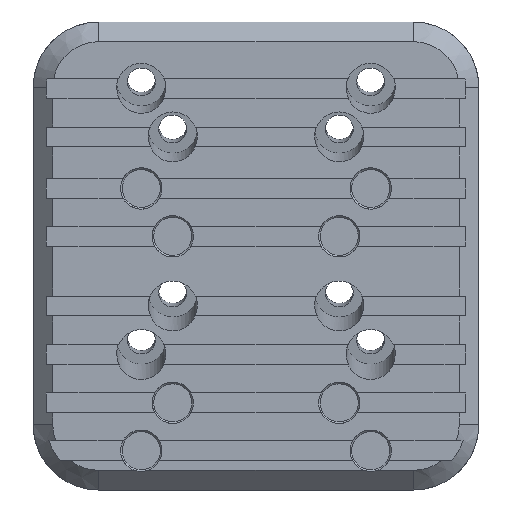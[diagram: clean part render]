
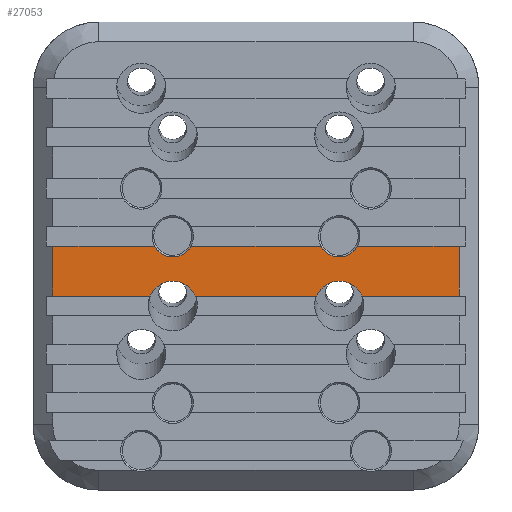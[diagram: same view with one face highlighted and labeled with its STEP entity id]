
A CAD part, front view. The second image highlights one B-rep face of the part: STEP entity #27053.
In plain terms, the highlighted planar face has unit normal (0, -1, 0).
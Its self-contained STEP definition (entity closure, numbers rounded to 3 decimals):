
#85 = EDGE_CURVE ( 'NONE', #14109, #9292, #25802, .T. ) ;
#475 = EDGE_CURVE ( 'NONE', #19789, #5242, #15084, .T. ) ;
#595 = CARTESIAN_POINT ( 'NONE',  ( 17.853, 0., -41.824 ) ) ;
#670 = CARTESIAN_POINT ( 'NONE',  ( 24.747, 0., -41.824 ) ) ;
#704 = ORIENTED_EDGE ( 'NONE', *, *, #24078, .F. ) ;
#935 = EDGE_CURVE ( 'NONE', #22788, #10966, #13414, .T. ) ;
#2273 = CARTESIAN_POINT ( 'NONE',  ( 0., 0., -34.2 ) ) ;
#2625 = CARTESIAN_POINT ( 'NONE',  ( 24.076, 0., -34.2 ) ) ;
#2744 = VERTEX_POINT ( 'NONE', #10439 ) ;
#3086 = PLANE ( 'NONE',  #19860 ) ;
#3620 = FACE_OUTER_BOUND ( 'NONE', #4729, .T. ) ;
#4048 = DIRECTION ( 'NONE',  ( 0., 1., 0. ) ) ;
#4729 = EDGE_LOOP ( 'NONE', ( #9269, #15176, #19184, #704, #15189, #14493, #11249, #20325, #16315, #14563, #19924, #12339 ) ) ;
#4783 = DIRECTION ( 'NONE',  ( 0., -1., 0. ) ) ;
#4998 = CARTESIAN_POINT ( 'NONE',  ( 68., 0., -71.4 ) ) ;
#5242 = VERTEX_POINT ( 'NONE', #8549 ) ;
#5730 = CARTESIAN_POINT ( 'NONE',  ( 3., 0., -34.2 ) ) ;
#6529 = DIRECTION ( 'NONE',  ( 1., 0., 0. ) ) ;
#6572 = VERTEX_POINT ( 'NONE', #14537 ) ;
#7271 = DIRECTION ( 'NONE',  ( 0., 1., 0. ) ) ;
#7841 = CARTESIAN_POINT ( 'NONE',  ( 68., 0., -41.824 ) ) ;
#7996 = CARTESIAN_POINT ( 'NONE',  ( 44.772, 0., -38.225 ) ) ;
#8549 = CARTESIAN_POINT ( 'NONE',  ( 43.924, 0., -34.2 ) ) ;
#8713 = VERTEX_POINT ( 'NONE', #16493 ) ;
#9181 = VECTOR ( 'NONE', #25781, 1000. ) ;
#9269 = ORIENTED_EDGE ( 'NONE', *, *, #11040, .F. ) ;
#9292 = VERTEX_POINT ( 'NONE', #24420 ) ;
#10439 = CARTESIAN_POINT ( 'NONE',  ( 65., 0., -41.824 ) ) ;
#10561 = DIRECTION ( 'NONE',  ( 1., 0., 0. ) ) ;
#10966 = VERTEX_POINT ( 'NONE', #17133 ) ;
#11040 = EDGE_CURVE ( 'NONE', #10966, #19789, #19916, .T. ) ;
#11101 = CARTESIAN_POINT ( 'NONE',  ( 65., 0., -71.4 ) ) ;
#11237 = CARTESIAN_POINT ( 'NONE',  ( 0., 0., -34.2 ) ) ;
#11249 = ORIENTED_EDGE ( 'NONE', *, *, #14931, .T. ) ;
#11275 = CARTESIAN_POINT ( 'NONE',  ( 17.853, 0., -41.824 ) ) ;
#11429 = EDGE_CURVE ( 'NONE', #2744, #6572, #18314, .T. ) ;
#12030 = EDGE_CURVE ( 'NONE', #14109, #5242, #26398, .T. ) ;
#12137 = DIRECTION ( 'NONE',  ( 0., 0., -1. ) ) ;
#12238 = CARTESIAN_POINT ( 'NONE',  ( 48.628, 0., -38.225 ) ) ;
#12339 = ORIENTED_EDGE ( 'NONE', *, *, #475, .F. ) ;
#12540 = LINE ( 'NONE', #16736, #22953 ) ;
#12624 = DIRECTION ( 'NONE',  ( -1., 0., 0. ) ) ;
#13179 = CARTESIAN_POINT ( 'NONE',  ( 23.228, 0., -38.225 ) ) ;
#13195 = DIRECTION ( 'NONE',  ( 0., 0., 1. ) ) ;
#13414 = LINE ( 'NONE', #2273, #18998 ) ;
#13691 = EDGE_CURVE ( 'NONE', #2744, #9292, #20171, .T. ) ;
#14076 = LINE ( 'NONE', #24579, #19615 ) ;
#14109 = VERTEX_POINT ( 'NONE', #17037 ) ;
#14493 = ORIENTED_EDGE ( 'NONE', *, *, #18411, .F. ) ;
#14537 = CARTESIAN_POINT ( 'NONE',  ( 50.147, 0., -41.824 ) ) ;
#14563 = ORIENTED_EDGE ( 'NONE', *, *, #85, .F. ) ;
#14656 = VECTOR ( 'NONE', #13195, 1000. ) ;
#14748 = CARTESIAN_POINT ( 'NONE',  ( 3., 0., -41.824 ) ) ;
#14931 = EDGE_CURVE ( 'NONE', #22949, #6572, #24530, .T. ) ;
#14965 =( BOUNDED_CURVE ( )  B_SPLINE_CURVE ( 3, ( #595, #17299, #13179, #670 ),
 .UNSPECIFIED., .F., .F. ) 
 B_SPLINE_CURVE_WITH_KNOTS ( ( 4, 4 ),
 ( 5.117, 7.449 ),
 .UNSPECIFIED. ) 
 CURVE ( )  GEOMETRIC_REPRESENTATION_ITEM ( )  RATIONAL_B_SPLINE_CURVE ( ( 1., 0.596, 0.596, 1. ) ) 
 REPRESENTATION_ITEM ( '' )  );
#15084 = LINE ( 'NONE', #18944, #19944 ) ;
#15176 = ORIENTED_EDGE ( 'NONE', *, *, #935, .F. ) ;
#15189 = ORIENTED_EDGE ( 'NONE', *, *, #19262, .T. ) ;
#16315 = ORIENTED_EDGE ( 'NONE', *, *, #13691, .T. ) ;
#16418 = CARTESIAN_POINT ( 'NONE',  ( 68., 0., -41.824 ) ) ;
#16493 = CARTESIAN_POINT ( 'NONE',  ( 24.747, 0., -41.824 ) ) ;
#16576 = CARTESIAN_POINT ( 'NONE',  ( 46.7, 0., -32.7 ) ) ;
#16736 = CARTESIAN_POINT ( 'NONE',  ( 68., 0., -41.824 ) ) ;
#17037 = CARTESIAN_POINT ( 'NONE',  ( 49.476, 0., -34.2 ) ) ;
#17133 = CARTESIAN_POINT ( 'NONE',  ( 18.524, 0., -34.2 ) ) ;
#17295 = CARTESIAN_POINT ( 'NONE',  ( 21.3, 0., -32.7 ) ) ;
#17299 = CARTESIAN_POINT ( 'NONE',  ( 19.372, 0., -38.225 ) ) ;
#18314 = LINE ( 'NONE', #16418, #23805 ) ;
#18411 = EDGE_CURVE ( 'NONE', #22949, #8713, #23985, .T. ) ;
#18660 = DIRECTION ( 'NONE',  ( 0., 0., 1. ) ) ;
#18944 = CARTESIAN_POINT ( 'NONE',  ( 0., 0., -34.2 ) ) ;
#18998 = VECTOR ( 'NONE', #10561, 1000. ) ;
#19120 = VERTEX_POINT ( 'NONE', #14748 ) ;
#19184 = ORIENTED_EDGE ( 'NONE', *, *, #26064, .T. ) ;
#19262 = EDGE_CURVE ( 'NONE', #21142, #8713, #14965, .T. ) ;
#19377 = DIRECTION ( 'NONE',  ( 0., 0., 1. ) ) ;
#19615 = VECTOR ( 'NONE', #12137, 1000. ) ;
#19789 = VERTEX_POINT ( 'NONE', #2625 ) ;
#19860 = AXIS2_PLACEMENT_3D ( 'NONE', #4998, #7271, #21862 ) ;
#19916 = CIRCLE ( 'NONE', #26343, 3.155 ) ;
#19924 = ORIENTED_EDGE ( 'NONE', *, *, #12030, .T. ) ;
#19944 = VECTOR ( 'NONE', #6529, 1000. ) ;
#20171 = LINE ( 'NONE', #11101, #14656 ) ;
#20325 = ORIENTED_EDGE ( 'NONE', *, *, #11429, .F. ) ;
#20343 = DIRECTION ( 'NONE',  ( -1., 0., 0. ) ) ;
#21142 = VERTEX_POINT ( 'NONE', #11275 ) ;
#21315 = CARTESIAN_POINT ( 'NONE',  ( 43.253, 0., -41.824 ) ) ;
#21862 = DIRECTION ( 'NONE',  ( 0., 0., 1. ) ) ;
#22606 = CARTESIAN_POINT ( 'NONE',  ( 43.253, 0., -41.824 ) ) ;
#22788 = VERTEX_POINT ( 'NONE', #5730 ) ;
#22949 = VERTEX_POINT ( 'NONE', #21315 ) ;
#22953 = VECTOR ( 'NONE', #12624, 1000. ) ;
#23374 = VECTOR ( 'NONE', #20343, 1000. ) ;
#23417 = AXIS2_PLACEMENT_3D ( 'NONE', #16576, #4048, #18660 ) ;
#23805 = VECTOR ( 'NONE', #26778, 1000. ) ;
#23985 = LINE ( 'NONE', #7841, #23374 ) ;
#24078 = EDGE_CURVE ( 'NONE', #21142, #19120, #12540, .T. ) ;
#24420 = CARTESIAN_POINT ( 'NONE',  ( 65., 0., -34.2 ) ) ;
#24530 =( BOUNDED_CURVE ( )  B_SPLINE_CURVE ( 3, ( #22606, #7996, #12238, #26782 ),
 .UNSPECIFIED., .F., .F. ) 
 B_SPLINE_CURVE_WITH_KNOTS ( ( 4, 4 ),
 ( 5.117, 7.449 ),
 .UNSPECIFIED. ) 
 CURVE ( )  GEOMETRIC_REPRESENTATION_ITEM ( )  RATIONAL_B_SPLINE_CURVE ( ( 1., 0.596, 0.596, 1. ) ) 
 REPRESENTATION_ITEM ( '' )  );
#24579 = CARTESIAN_POINT ( 'NONE',  ( 3., 0., -61.4 ) ) ;
#25781 = DIRECTION ( 'NONE',  ( 1., 0., 0. ) ) ;
#25802 = LINE ( 'NONE', #11237, #9181 ) ;
#26064 = EDGE_CURVE ( 'NONE', #22788, #19120, #14076, .T. ) ;
#26343 = AXIS2_PLACEMENT_3D ( 'NONE', #17295, #4783, #19377 ) ;
#26398 = CIRCLE ( 'NONE', #23417, 3.155 ) ;
#26778 = DIRECTION ( 'NONE',  ( -1., 0., 0. ) ) ;
#26782 = CARTESIAN_POINT ( 'NONE',  ( 50.147, 0., -41.824 ) ) ;
#27053 = ADVANCED_FACE ( 'NONE', ( #3620 ), #3086, .F. ) ;
